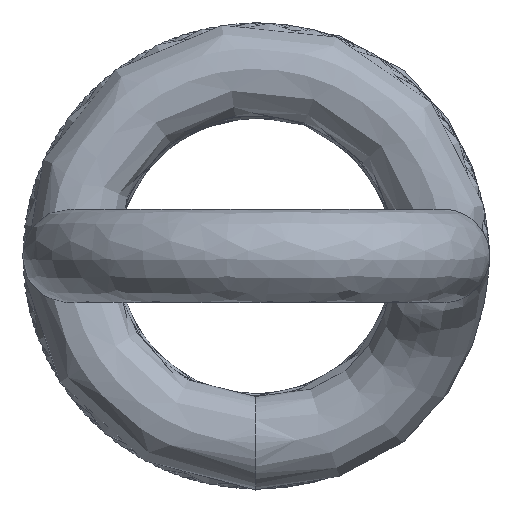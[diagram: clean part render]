
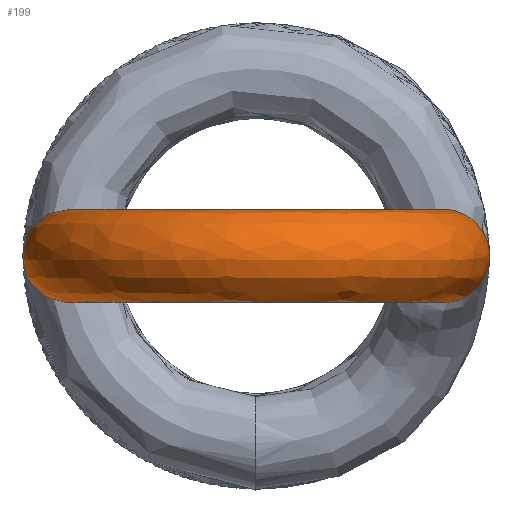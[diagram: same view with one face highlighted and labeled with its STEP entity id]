
A CAD part, front view. The second image highlights one B-rep face of the part: STEP entity #199.
In plain terms, the highlighted free-form (B-spline) face has degree [2, 2] with [9, 7] control points.
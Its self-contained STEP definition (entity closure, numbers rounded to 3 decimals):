
#15=(
BOUNDED_SURFACE()
B_SPLINE_SURFACE(2,2,((#679,#680,#681,#682,#683,#684,#685),(#686,#687,#688,
#689,#690,#691,#692),(#693,#694,#695,#696,#697,#698,#699),(#700,#701,#702,
#703,#704,#705,#706),(#707,#708,#709,#710,#711,#712,#713),(#714,#715,#716,
#717,#718,#719,#720),(#721,#722,#723,#724,#725,#726,#727),(#728,#729,#730,
#731,#732,#733,#734),(#735,#736,#737,#738,#739,#740,#741)),
 .UNSPECIFIED.,.T.,.F.,.F.)
B_SPLINE_SURFACE_WITH_KNOTS((3,2,2,2,3),(3,2,2,3),(0.,1.571,3.142,
4.712,6.283),(0.,1.131,2.261,
3.392),.UNSPECIFIED.)
GEOMETRIC_REPRESENTATION_ITEM()
RATIONAL_B_SPLINE_SURFACE(((1.,0.844,1.,0.844,1.,
0.844,1.),(0.707,0.597,0.707,
0.597,0.707,0.597,0.707),
(1.,0.844,1.,0.844,1.,0.844,1.),(0.707,
0.597,0.707,0.597,0.707,0.597,
0.707),(1.,0.844,1.,0.844,1.,0.844,
1.),(0.707,0.597,0.707,0.597,
0.707,0.597,0.707),(1.,0.844,
1.,0.844,1.,0.844,1.),(0.707,0.597,
0.707,0.597,0.707,0.597,
0.707),(1.,0.844,1.,0.844,1.,0.844,
1.)))
REPRESENTATION_ITEM('')
SURFACE()
);
#22=CIRCLE('',#234,1.);
#23=CIRCLE('',#235,3.574);
#24=CIRCLE('',#236,1.);
#37=FACE_OUTER_BOUND('',#48,.T.);
#48=EDGE_LOOP('',(#142,#143,#144,#145));
#85=VERTEX_POINT('',#610);
#88=VERTEX_POINT('',#742);
#106=EDGE_CURVE('',#85,#85,#22,.T.);
#109=EDGE_CURVE('',#85,#88,#23,.T.);
#110=EDGE_CURVE('',#88,#88,#24,.T.);
#142=ORIENTED_EDGE('',*,*,#106,.T.);
#143=ORIENTED_EDGE('',*,*,#109,.T.);
#144=ORIENTED_EDGE('',*,*,#110,.F.);
#145=ORIENTED_EDGE('',*,*,#109,.F.);
#199=ADVANCED_FACE('',(#37),#15,.T.);
#234=AXIS2_PLACEMENT_3D('',#621,#256,#257);
#235=AXIS2_PLACEMENT_3D('',#743,#258,#259);
#236=AXIS2_PLACEMENT_3D('',#744,#260,#261);
#256=DIRECTION('center_axis',(0.,-1.,0.));
#257=DIRECTION('ref_axis',(-0.426,0.,-0.905));
#258=DIRECTION('center_axis',(0.,0.,
-1.));
#259=DIRECTION('ref_axis',(1.,0.,0.));
#260=DIRECTION('center_axis',(0.248,0.969,0.));
#261=DIRECTION('ref_axis',(0.412,-0.106,-0.905));
#610=CARTESIAN_POINT('',(3.574,-51.6,-0.905));
#621=CARTESIAN_POINT('Origin',(4.,-51.6,0.));
#679=CARTESIAN_POINT('Ctrl Pts',(3.574,-51.6,-0.905));
#680=CARTESIAN_POINT('Ctrl Pts',(3.574,-53.868,-0.905));
#681=CARTESIAN_POINT('Ctrl Pts',(1.523,-54.834,-0.905));
#682=CARTESIAN_POINT('Ctrl Pts',(-0.529,-55.8,-0.905));
#683=CARTESIAN_POINT('Ctrl Pts',(-2.277,-54.355,-0.905));
#684=CARTESIAN_POINT('Ctrl Pts',(-4.025,-52.91,-0.905));
#685=CARTESIAN_POINT('Ctrl Pts',(-3.463,-50.713,-0.905));
#686=CARTESIAN_POINT('Ctrl Pts',(4.479,-51.6,-1.33));
#687=CARTESIAN_POINT('Ctrl Pts',(4.479,-54.442,-1.33));
#688=CARTESIAN_POINT('Ctrl Pts',(1.908,-55.653,-1.33));
#689=CARTESIAN_POINT('Ctrl Pts',(-0.663,-56.863,-1.33));
#690=CARTESIAN_POINT('Ctrl Pts',(-2.854,-55.053,-1.33));
#691=CARTESIAN_POINT('Ctrl Pts',(-5.044,-53.242,-1.33));
#692=CARTESIAN_POINT('Ctrl Pts',(-4.339,-50.489,-1.33));
#693=CARTESIAN_POINT('Ctrl Pts',(4.905,-51.6,-0.426));
#694=CARTESIAN_POINT('Ctrl Pts',(4.905,-54.712,-0.426));
#695=CARTESIAN_POINT('Ctrl Pts',(2.089,-56.038,-0.426));
#696=CARTESIAN_POINT('Ctrl Pts',(-0.726,-57.363,-0.426));
#697=CARTESIAN_POINT('Ctrl Pts',(-3.125,-55.381,-0.426));
#698=CARTESIAN_POINT('Ctrl Pts',(-5.524,-53.398,-0.426));
#699=CARTESIAN_POINT('Ctrl Pts',(-4.752,-50.383,-0.426));
#700=CARTESIAN_POINT('Ctrl Pts',(5.33,-51.6,0.479));
#701=CARTESIAN_POINT('Ctrl Pts',(5.33,-54.982,0.479));
#702=CARTESIAN_POINT('Ctrl Pts',(2.271,-56.423,0.479));
#703=CARTESIAN_POINT('Ctrl Pts',(-0.789,-57.863,0.479));
#704=CARTESIAN_POINT('Ctrl Pts',(-3.396,-55.709,0.479));
#705=CARTESIAN_POINT('Ctrl Pts',(-6.003,-53.554,0.479));
#706=CARTESIAN_POINT('Ctrl Pts',(-5.164,-50.278,0.479));
#707=CARTESIAN_POINT('Ctrl Pts',(4.426,-51.6,0.905));
#708=CARTESIAN_POINT('Ctrl Pts',(4.426,-54.408,0.905));
#709=CARTESIAN_POINT('Ctrl Pts',(1.885,-55.604,0.905));
#710=CARTESIAN_POINT('Ctrl Pts',(-0.655,-56.8,0.905));
#711=CARTESIAN_POINT('Ctrl Pts',(-2.819,-55.011,0.905));
#712=CARTESIAN_POINT('Ctrl Pts',(-4.984,-53.222,0.905));
#713=CARTESIAN_POINT('Ctrl Pts',(-4.287,-50.502,0.905));
#714=CARTESIAN_POINT('Ctrl Pts',(3.521,-51.6,1.33));
#715=CARTESIAN_POINT('Ctrl Pts',(3.521,-53.834,1.33));
#716=CARTESIAN_POINT('Ctrl Pts',(1.5,-54.785,1.33));
#717=CARTESIAN_POINT('Ctrl Pts',(-0.521,-55.737,1.33));
#718=CARTESIAN_POINT('Ctrl Pts',(-2.243,-54.314,1.33));
#719=CARTESIAN_POINT('Ctrl Pts',(-3.965,-52.891,1.33));
#720=CARTESIAN_POINT('Ctrl Pts',(-3.411,-50.727,1.33));
#721=CARTESIAN_POINT('Ctrl Pts',(3.095,-51.6,0.426));
#722=CARTESIAN_POINT('Ctrl Pts',(3.095,-53.564,0.426));
#723=CARTESIAN_POINT('Ctrl Pts',(1.318,-54.4,0.426));
#724=CARTESIAN_POINT('Ctrl Pts',(-0.458,-55.237,0.426));
#725=CARTESIAN_POINT('Ctrl Pts',(-1.972,-53.986,0.426));
#726=CARTESIAN_POINT('Ctrl Pts',(-3.485,-52.735,0.426));
#727=CARTESIAN_POINT('Ctrl Pts',(-2.998,-50.832,0.426));
#728=CARTESIAN_POINT('Ctrl Pts',(2.67,-51.6,-0.479));
#729=CARTESIAN_POINT('Ctrl Pts',(2.67,-53.294,-0.479));
#730=CARTESIAN_POINT('Ctrl Pts',(1.137,-54.015,-0.479));
#731=CARTESIAN_POINT('Ctrl Pts',(-0.395,-54.737,-0.479));
#732=CARTESIAN_POINT('Ctrl Pts',(-1.701,-53.658,-0.479));
#733=CARTESIAN_POINT('Ctrl Pts',(-3.006,-52.579,-0.479));
#734=CARTESIAN_POINT('Ctrl Pts',(-2.586,-50.938,-0.479));
#735=CARTESIAN_POINT('Ctrl Pts',(3.574,-51.6,-0.905));
#736=CARTESIAN_POINT('Ctrl Pts',(3.574,-53.868,-0.905));
#737=CARTESIAN_POINT('Ctrl Pts',(1.523,-54.834,-0.905));
#738=CARTESIAN_POINT('Ctrl Pts',(-0.529,-55.8,-0.905));
#739=CARTESIAN_POINT('Ctrl Pts',(-2.277,-54.355,-0.905));
#740=CARTESIAN_POINT('Ctrl Pts',(-4.025,-52.91,-0.905));
#741=CARTESIAN_POINT('Ctrl Pts',(-3.463,-50.713,-0.905));
#742=CARTESIAN_POINT('',(-3.463,-50.713,-0.905));
#743=CARTESIAN_POINT('Origin',(0.,-51.6,-0.905));
#744=CARTESIAN_POINT('Origin',(-3.875,-50.608,0.));
